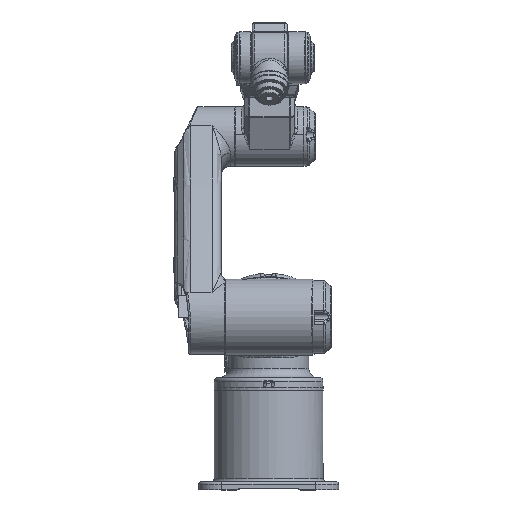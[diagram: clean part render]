
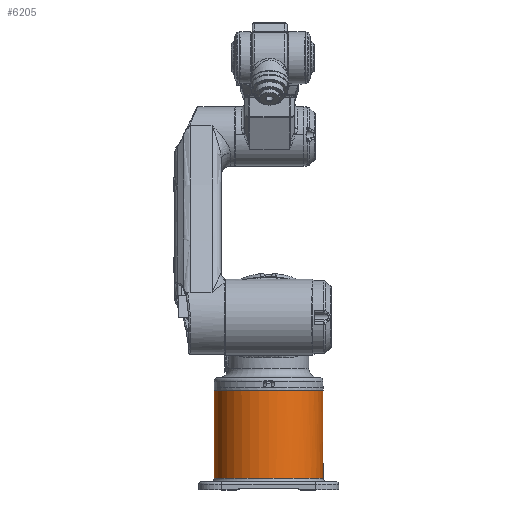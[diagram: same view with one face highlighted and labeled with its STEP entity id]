
A CAD part, top view. The second image highlights one B-rep face of the part: STEP entity #6205.
In plain terms, the highlighted cylindrical face has radius 118 mm (diameter 236 mm), a partial arc.
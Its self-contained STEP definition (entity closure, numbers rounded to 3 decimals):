
#766=CARTESIAN_POINT('',(-77.355,22.002,-89.108));
#768=CARTESIAN_POINT('',(0.,22.,0.));
#769=DIRECTION('',(0.,1.,0.));
#770=DIRECTION('',(-0.656,0.,-0.755));
#771=AXIS2_PLACEMENT_3D('',#768,#769,#770);
#773=CARTESIAN_POINT('',(0.,22.,0.));
#774=DIRECTION('',(0.,1.,0.));
#775=DIRECTION('',(0.,0.,1.));
#776=AXIS2_PLACEMENT_3D('',#773,#774,#775);
#778=CARTESIAN_POINT('',(0.,22.,0.));
#779=DIRECTION('',(0.,1.,0.));
#780=DIRECTION('',(0.528,0.,0.849));
#781=AXIS2_PLACEMENT_3D('',#778,#779,#780);
#796=CARTESIAN_POINT('',(-77.73,26.,-88.781));
#797=CARTESIAN_POINT('',(-77.73,25.563,-88.781));
#798=CARTESIAN_POINT('',(-77.702,24.685,-88.805));
#799=CARTESIAN_POINT('',(-77.581,23.357,-88.911));
#800=CARTESIAN_POINT('',(-77.441,22.457,-89.033));
#801=CARTESIAN_POINT('',(-77.355,22.002,-89.108));
#808=DIRECTION('',(0.,-1.,0.));
#809=VECTOR('',#808,174.);
#810=CARTESIAN_POINT('',(-77.73,200.,-88.781));
#811=LINE('',#810,#809);
#1070=DIRECTION('',(0.,1.,0.));
#1071=VECTOR('',#1070,174.);
#1072=CARTESIAN_POINT('',(77.73,26.,-88.781));
#1073=LINE('',#1072,#1071);
#1074=CARTESIAN_POINT('',(-77.73,200.,
-88.781));
#1075=CARTESIAN_POINT('',(-77.743,200.948,
-88.77));
#1076=CARTESIAN_POINT('',(-77.615,202.881,
-88.882));
#1077=CARTESIAN_POINT('',(-76.874,206.258,
-89.526));
#1078=CARTESIAN_POINT('',(-75.825,209.001,
-90.419));
#1079=CARTESIAN_POINT('',(-74.649,211.003,
-91.391));
#1080=CARTESIAN_POINT('',(-73.966,211.999,
-91.941));
#1082=DIRECTION('',(0.,1.,0.));
#1083=VECTOR('',#1082,0.2);
#1084=CARTESIAN_POINT('',(0.,212.,-118.));
#1085=LINE('',#1084,#1083);
#1086=DIRECTION('',(0.,-1.,0.));
#1087=VECTOR('',#1086,0.2);
#1088=CARTESIAN_POINT('',(0.,212.2,118.));
#1089=LINE('',#1088,#1087);
#1090=CARTESIAN_POINT('',(0.,212.,0.));
#1091=DIRECTION('',(0.,1.,0.));
#1092=DIRECTION('',(0.,0.,1.));
#1093=AXIS2_PLACEMENT_3D('',#1090,#1091,#1092);
#1252=CARTESIAN_POINT('',(77.73,200.,-88.781));
#1253=CARTESIAN_POINT('',(77.73,201.026,-88.781));
#1254=CARTESIAN_POINT('',(77.594,203.069,-88.9));
#1255=CARTESIAN_POINT('',(76.835,206.38,-89.559));
#1256=CARTESIAN_POINT('',(75.758,209.11,-90.475));
#1257=CARTESIAN_POINT('',(74.646,211.057,-91.393));
#1258=CARTESIAN_POINT('',(73.984,212.,-91.926));
#1276=CARTESIAN_POINT('',(0.,212.,0.));
#1277=DIRECTION('',(0.,1.,0.));
#1278=DIRECTION('',(0.,0.,-1.));
#1279=AXIS2_PLACEMENT_3D('',#1276,#1277,#1278);
#1904=CARTESIAN_POINT('',(0.,212.2,0.));
#1905=DIRECTION('',(0.,-1.,0.));
#1906=DIRECTION('',(0.,0.,1.));
#1907=AXIS2_PLACEMENT_3D('',#1904,#1905,#1906);
#2907=CARTESIAN_POINT('',(77.354,22.001,-89.109));
#2908=CARTESIAN_POINT('',(77.437,22.437,-89.036));
#2909=CARTESIAN_POINT('',(77.575,23.313,-88.917));
#2910=CARTESIAN_POINT('',(77.701,24.643,-88.807));
#2911=CARTESIAN_POINT('',(77.73,25.545,-88.781));
#2912=CARTESIAN_POINT('',(77.73,26.,-88.781));
#4240=VERTEX_POINT('',#766);
#4241=CARTESIAN_POINT('',(0.,22.,118.));
#4242=VERTEX_POINT('',#4241);
#4243=CARTESIAN_POINT('',(62.275,22.,100.229));
#4244=VERTEX_POINT('',#4243);
#4245=CARTESIAN_POINT('',(77.354,22.,-89.109));
#4246=VERTEX_POINT('',#4245);
#4248=CARTESIAN_POINT('',(-77.73,26.,-88.781));
#4249=VERTEX_POINT('',#4248);
#4250=CARTESIAN_POINT('',(-77.73,200.,
-88.781));
#4251=VERTEX_POINT('',#4250);
#4254=VERTEX_POINT('',#1080);
#4255=CARTESIAN_POINT('',(0.,212.,-118.));
#4256=VERTEX_POINT('',#4255);
#4257=CARTESIAN_POINT('',(0.,212.2,-118.));
#4258=VERTEX_POINT('',#4257);
#4259=CARTESIAN_POINT('',(0.,212.2,118.));
#4260=VERTEX_POINT('',#4259);
#4261=CARTESIAN_POINT('',(0.,212.,118.));
#4262=VERTEX_POINT('',#4261);
#4263=CARTESIAN_POINT('',(73.984,212.,-91.926));
#4264=VERTEX_POINT('',#4263);
#4265=VERTEX_POINT('',#1252);
#4266=CARTESIAN_POINT('',(77.73,26.,-88.781));
#4267=VERTEX_POINT('',#4266);
#6176=CARTESIAN_POINT('',(0.,14.,0.));
#6177=DIRECTION('',(0.,1.,0.));
#6178=DIRECTION('',(0.,0.,-1.));
#6179=AXIS2_PLACEMENT_3D('',#6176,#6177,#6178);
#6180=CYLINDRICAL_SURFACE('',#6179,118.);
#6182=ORIENTED_EDGE('',*,*,#6181,.T.);
#6184=ORIENTED_EDGE('',*,*,#6183,.F.);
#6186=ORIENTED_EDGE('',*,*,#6185,.T.);
#6188=ORIENTED_EDGE('',*,*,#6187,.F.);
#6190=ORIENTED_EDGE('',*,*,#6189,.T.);
#6192=ORIENTED_EDGE('',*,*,#6191,.T.);
#6194=ORIENTED_EDGE('',*,*,#6193,.F.);
#6195=ORIENTED_EDGE('',*,*,#6159,.F.);
#6197=ORIENTED_EDGE('',*,*,#6196,.F.);
#6198=ORIENTED_EDGE('',*,*,#5685,.F.);
#6199=ORIENTED_EDGE('',*,*,#5683,.F.);
#6200=ORIENTED_EDGE('',*,*,#5681,.F.);
#6201=ORIENTED_EDGE('',*,*,#5790,.F.);
#6202=ORIENTED_EDGE('',*,*,#5811,.F.);
#6203=EDGE_LOOP('',(#6182,#6184,#6186,#6188,#6190,#6192,#6194,#6195,#6197,#6198,
#6199,#6200,#6201,#6202));
#6204=FACE_OUTER_BOUND('',#6203,.F.);
#772=CIRCLE('',#771,118.);
#777=CIRCLE('',#776,118.);
#782=CIRCLE('',#781,118.);
#802=B_SPLINE_CURVE_WITH_KNOTS('',3,(#796,#797,#798,#799,#800,#801),
.UNSPECIFIED.,.F.,.F.,(4,1,1,4),(0.,0.333,0.667,1.),
.UNSPECIFIED.);
#1081=B_SPLINE_CURVE_WITH_KNOTS('',3,(#1074,#1075,#1076,#1077,#1078,#1079,
#1080),.UNSPECIFIED.,.F.,.F.,(4,1,1,1,4),(0.,0.25,0.5,0.75,1.),
.UNSPECIFIED.);
#1094=CIRCLE('',#1093,118.);
#1259=B_SPLINE_CURVE_WITH_KNOTS('',3,(#1252,#1253,#1254,#1255,#1256,#1257,
#1258),.UNSPECIFIED.,.F.,.F.,(4,1,1,1,4),(0.,0.25,0.5,0.75,1.),
.UNSPECIFIED.);
#1280=CIRCLE('',#1279,118.);
#1908=CIRCLE('',#1907,118.);
#2913=B_SPLINE_CURVE_WITH_KNOTS('',3,(#2907,#2908,#2909,#2910,#2911,#2912),
.UNSPECIFIED.,.F.,.F.,(4,1,1,4),(0.,0.333,0.667,1.),
.UNSPECIFIED.);
#5681=EDGE_CURVE('',#4240,#4242,#772,.T.);
#5683=EDGE_CURVE('',#4242,#4244,#777,.T.);
#5685=EDGE_CURVE('',#4244,#4246,#782,.T.);
#5790=EDGE_CURVE('',#4249,#4240,#802,.T.);
#5811=EDGE_CURVE('',#4251,#4249,#811,.T.);
#6159=EDGE_CURVE('',#4267,#4265,#1073,.T.);
#6181=EDGE_CURVE('',#4251,#4254,#1081,.T.);
#6183=EDGE_CURVE('',#4256,#4254,#1280,.T.);
#6185=EDGE_CURVE('',#4256,#4258,#1085,.T.);
#6187=EDGE_CURVE('',#4260,#4258,#1908,.T.);
#6189=EDGE_CURVE('',#4260,#4262,#1089,.T.);
#6191=EDGE_CURVE('',#4262,#4264,#1094,.T.);
#6193=EDGE_CURVE('',#4265,#4264,#1259,.T.);
#6196=EDGE_CURVE('',#4246,#4267,#2913,.T.);
#6205=ADVANCED_FACE('',(#6204),#6180,.T.);
